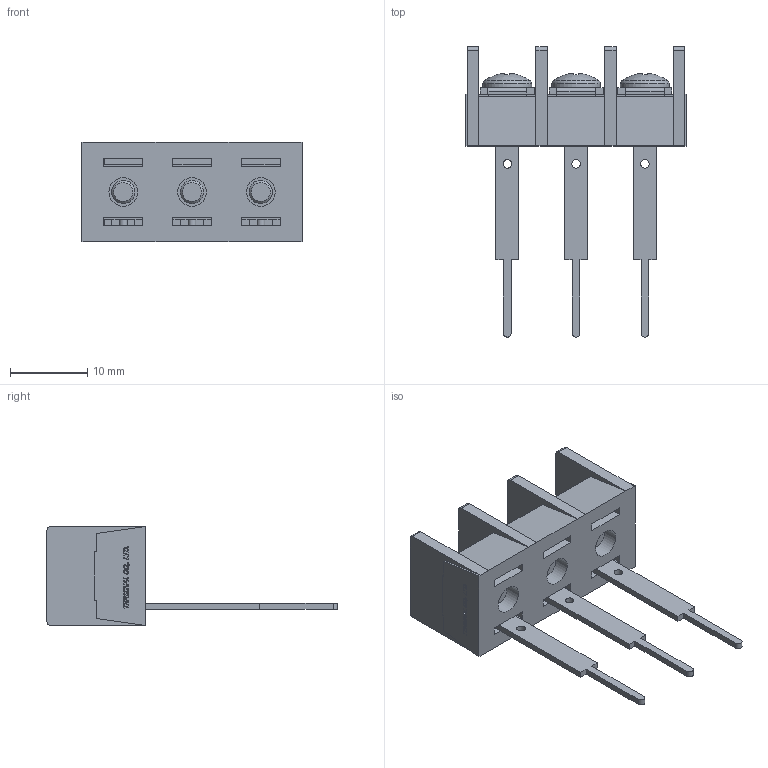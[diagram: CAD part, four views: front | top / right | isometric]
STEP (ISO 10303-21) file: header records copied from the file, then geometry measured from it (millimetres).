
FILE_DESCRIPTION(/* description */ ('Alibre Inc.'),/* implementation_level */ '2;1');
FILE_NAME(/* name */ 'export0',/* time_stamp */ '2015-10-20T19:58:27+09:00',/* author */ (''),/* organization */ (''),/* preprocessor_version */ 'ST-DEVELOPER v14',/* originating_system */ 'Alibre',/* authorisation */ '');
FILE_SCHEMA (('CONFIG_CONTROL_DESIGN'));
Length unit declared in the file: centimetre
Products named in the file (1): ID_1
Bounding box: 28.58 x 37.5 x 12.8 mm (x, y, z)
Volume: 2855.8 mm3; surface area: 3900.9 mm2
Topology: 1 solids, 49 shells, 1248 faces, 3245 edges, 2150 vertices
Faces by surface type: plane 929, bspline 260, cylinder 35, cone 15, torus 6, sphere 3
Full cylindrical faces by diameter (mm): 1.1 x3, 3 x3, 3.7 x3, 4.6 x3, 6.3 x3
Entity records: 36561 total; most frequent: CARTESIAN_POINT 9020, ORIENTED_EDGE 6424, DIRECTION 3733, EDGE_CURVE 3212, VECTOR 2485, LINE 2485, VERTEX_POINT 2141, EDGE_LOOP 1375
